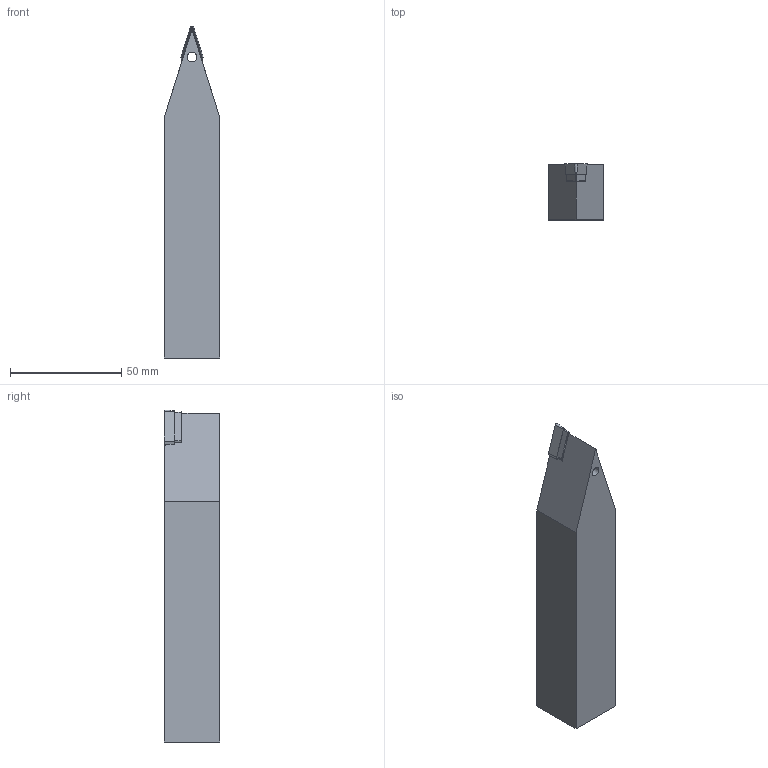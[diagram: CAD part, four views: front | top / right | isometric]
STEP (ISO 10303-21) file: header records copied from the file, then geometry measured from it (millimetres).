
FILE_DESCRIPTION(/* description */ (''),/* implementation_level */ '2;1');
FILE_NAME(/* name */ 'SVVBN2525-M16-HAAS.stp',/* time_stamp */ '2021-09-29T11:04:44+09:00',/* author */ (''),/* organization */ (''),/* preprocessor_version */ 'ST-DEVELOPER v16.7',/* originating_system */ 'SIEMENS PLM Software NX 1946',/* authorisation */ '');
FILE_SCHEMA (('AP203_CONFIGURATION_CONTROLLED_3D_DESIGN_OF_MECHANICAL_PARTS_AND_ASSEMBLIES_MIM_LF { 1 0 10303 403 2 1 2}'));
Length unit declared in the file: millimetre
Products named in the file (1): user51A0C9E069dc
Bounding box: 25 x 25 x 149.07 mm (x, y, z)
Volume: 79311.4 mm3; surface area: 15744.8 mm2
Topology: 3 solids, 3 shells, 55 faces, 139 edges, 90 vertices
Faces by surface type: plane 40, cylinder 8, cone 7
Full cylindrical faces by diameter (mm): 4.2 x1, 5.4 x1, 6.2 x1
Entity records: 1715 total; most frequent: CARTESIAN_POINT 279, DIRECTION 271, ORIENTED_EDGE 268, EDGE_CURVE 134, LINE 109, VECTOR 109, VERTEX_POINT 89, AXIS2_PLACEMENT_3D 81
